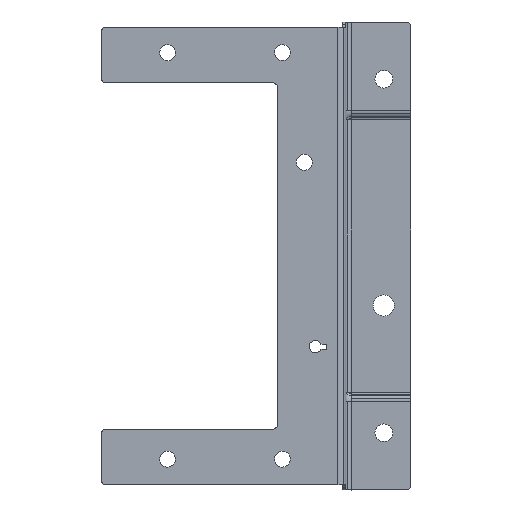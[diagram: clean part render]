
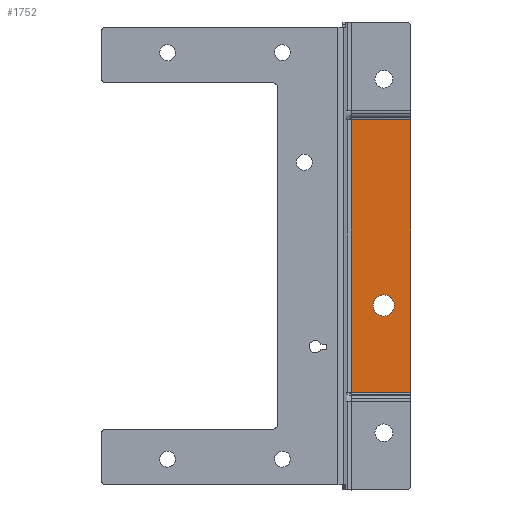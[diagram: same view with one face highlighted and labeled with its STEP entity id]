
A CAD part, top view. The second image highlights one B-rep face of the part: STEP entity #1752.
In plain terms, the highlighted planar face has unit normal (0, 0, 1).
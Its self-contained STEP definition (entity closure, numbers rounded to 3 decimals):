
#1043=CARTESIAN_POINT('Axis2P3D Location',(21.394,-659.005,89.8)) ;
#1633=CARTESIAN_POINT('Vertex',(12.,-687.009,89.8)) ;
#1640=CARTESIAN_POINT('Vertex',(0.,-687.009,89.8)) ;
#1643=CARTESIAN_POINT('Axis2P3D Location',(6.,-687.009,89.8)) ;
#1660=CARTESIAN_POINT('Axis2P3D Location',(6.,-687.009,89.8)) ;
#1698=CARTESIAN_POINT('Line Origine',(-10.519,-582.005,89.8)) ;
#1702=CARTESIAN_POINT('Vertex',(-12.432,-582.005,89.8)) ;
#1704=CARTESIAN_POINT('Vertex',(-8.606,-582.005,89.8)) ;
#1707=CARTESIAN_POINT('Line Origine',(-12.432,-659.005,89.8)) ;
#1711=CARTESIAN_POINT('Vertex',(-12.432,-736.005,89.8)) ;
#1714=CARTESIAN_POINT('Line Origine',(-10.519,-736.005,89.8)) ;
#1718=CARTESIAN_POINT('Vertex',(-8.606,-736.005,89.8)) ;
#1721=CARTESIAN_POINT('Line Origine',(6.394,-736.005,89.8)) ;
#1725=CARTESIAN_POINT('Vertex',(21.394,-736.005,89.8)) ;
#1728=CARTESIAN_POINT('Line Origine',(21.394,-659.005,89.8)) ;
#1732=CARTESIAN_POINT('Vertex',(21.394,-582.005,89.8)) ;
#1735=CARTESIAN_POINT('Line Origine',(6.394,-582.005,89.8)) ;
#1044=DIRECTION('Axis2P3D Direction',(0.,0.,1.)) ;
#1045=DIRECTION('Axis2P3D XDirection',(-1.,0.,0.)) ;
#1644=DIRECTION('Axis2P3D Direction',(0.,0.,1.)) ;
#1661=DIRECTION('Axis2P3D Direction',(0.,-0.,1.)) ;
#1699=DIRECTION('Vector Direction',(1.,0.,0.)) ;
#1708=DIRECTION('Vector Direction',(0.,1.,0.)) ;
#1715=DIRECTION('Vector Direction',(-1.,0.,0.)) ;
#1722=DIRECTION('Vector Direction',(-1.,0.,0.)) ;
#1729=DIRECTION('Vector Direction',(0.,1.,0.)) ;
#1736=DIRECTION('Vector Direction',(1.,0.,0.)) ;
#1046=AXIS2_PLACEMENT_3D('Plane Axis2P3D',#1043,#1044,#1045) ;
#1645=AXIS2_PLACEMENT_3D('Circle Axis2P3D',#1643,#1644,$) ;
#1662=AXIS2_PLACEMENT_3D('Circle Axis2P3D',#1660,#1661,$) ;
#1741=ORIENTED_EDGE('',*,*,#1706,.F.) ;
#1742=ORIENTED_EDGE('',*,*,#1713,.F.) ;
#1743=ORIENTED_EDGE('',*,*,#1720,.F.) ;
#1744=ORIENTED_EDGE('',*,*,#1727,.F.) ;
#1745=ORIENTED_EDGE('',*,*,#1734,.F.) ;
#1746=ORIENTED_EDGE('',*,*,#1739,.T.) ;
#1749=ORIENTED_EDGE('',*,*,#1647,.F.) ;
#1750=ORIENTED_EDGE('',*,*,#1664,.F.) ;
#1751=FACE_BOUND('',#1748,.T.) ;
#1700=VECTOR('Line Direction',#1699,1.) ;
#1709=VECTOR('Line Direction',#1708,1.) ;
#1716=VECTOR('Line Direction',#1715,1.) ;
#1723=VECTOR('Line Direction',#1722,1.) ;
#1730=VECTOR('Line Direction',#1729,1.) ;
#1737=VECTOR('Line Direction',#1736,1.) ;
#1752=ADVANCED_FACE('SHT0016189-\X2\4E2D5BBD8F664E3B9A7E9A76540E4FA794A391D1\X0\',(#1747,#1751),#1047,.T.) ;
#1646=CIRCLE('generated circle',#1645,6.) ;
#1663=CIRCLE('generated circle',#1662,6.) ;
#1647=EDGE_CURVE('',#1641,#1634,#1646,.T.) ;
#1664=EDGE_CURVE('',#1634,#1641,#1663,.T.) ;
#1706=EDGE_CURVE('',#1703,#1705,#1701,.T.) ;
#1713=EDGE_CURVE('',#1712,#1703,#1710,.T.) ;
#1720=EDGE_CURVE('',#1719,#1712,#1717,.T.) ;
#1727=EDGE_CURVE('',#1726,#1719,#1724,.T.) ;
#1734=EDGE_CURVE('',#1733,#1726,#1731,.F.) ;
#1739=EDGE_CURVE('',#1733,#1705,#1738,.F.) ;
#1740=EDGE_LOOP('',(#1741,#1742,#1743,#1744,#1745,#1746)) ;
#1748=EDGE_LOOP('',(#1749,#1750)) ;
#1747=FACE_OUTER_BOUND('',#1740,.T.) ;
#1701=LINE('Line',#1698,#1700) ;
#1710=LINE('Line',#1707,#1709) ;
#1717=LINE('Line',#1714,#1716) ;
#1724=LINE('Line',#1721,#1723) ;
#1731=LINE('Line',#1728,#1730) ;
#1738=LINE('Line',#1735,#1737) ;
#1047=PLANE('Plane',#1046) ;
#1634=VERTEX_POINT('',#1633) ;
#1641=VERTEX_POINT('',#1640) ;
#1703=VERTEX_POINT('',#1702) ;
#1705=VERTEX_POINT('',#1704) ;
#1712=VERTEX_POINT('',#1711) ;
#1719=VERTEX_POINT('',#1718) ;
#1726=VERTEX_POINT('',#1725) ;
#1733=VERTEX_POINT('',#1732) ;
